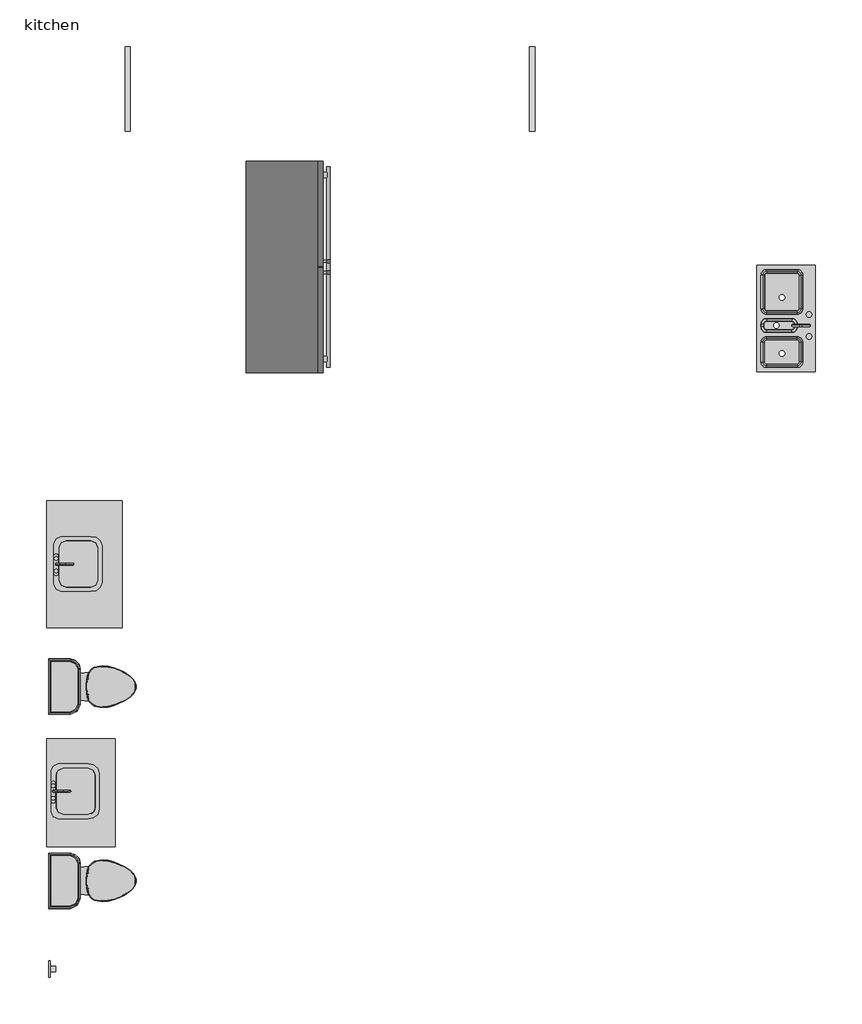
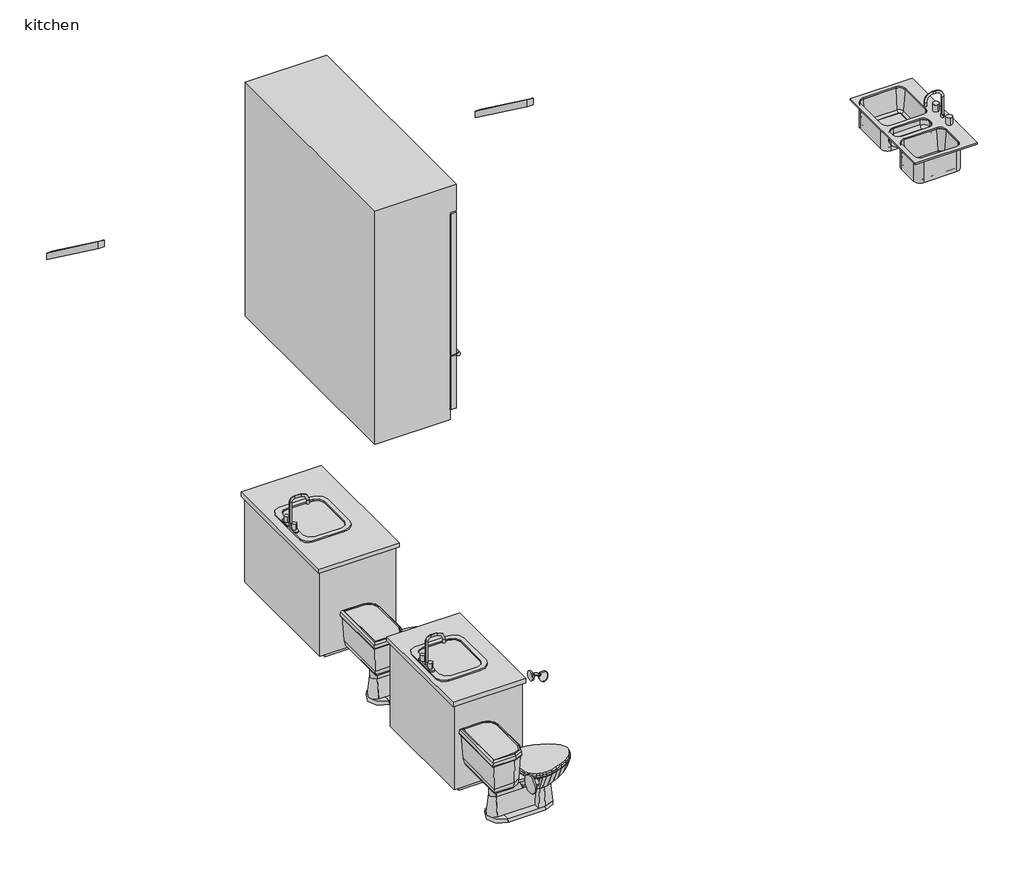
# One storey: 6 flow terminals, 3 proxies, 2 railings.
"""IFC4 building model written with IfcOpenShell, lengths in millimetres."""

from ifc_helpers import new_model, si_unit, origin, place, context, project, spatial, transform, mapped, element, save
from components import countertop_rectangle_shape_base_default_1_7ae78522, countertop_rectangle_shape_base_default_1_4019be03, fridge_default_1_46c48ad1, bath_basin_do_not_use_500_x_440mm_14db80bf, default_1_a9700879, kitchen_triple_sink_default_1_10f32469, kitchen_triple_sink_default_1_57820671, toilet_default_1_5cb52bd4, toilet_default_1_183bbd19, railing_900mm_rectangular_stringer_only_fc214f1d, railing_900mm_rectangular_stringer_only_a61a1eb9

model = new_model("IFC4")

# Units and contexts
model_context = context("Model", 3, world=origin())
ifc_project = project(units=[si_unit("LENGTHUNIT", "METRE", prefix="MILLI")], contexts=[model_context])

# Site, building, storey
site = spatial("IfcSite", under=ifc_project)
building = spatial("IfcBuilding", under=site)
storey = spatial("IfcBuildingStorey", under=building, Name="kitchen", Elevation=3505.2)

# Proxies
placement = place(None, origin())
countertop_rectangle_shape_base_default_1_shape = countertop_rectangle_shape_base_default_1_7ae78522(model_context)
element("IfcBuildingElementProxy", 1, Name="Countertop- Rectangle shape base : Default 1", ObjectType="Countertop- Rectangle shape base : Default 1", at=placement, inside=storey, context=model_context, shape_type="MappedRepresentation", body=[
    mapped(countertop_rectangle_shape_base_default_1_shape, transform((-5241.925, -1863.725, 3505.2), x_axis=(0.0, 1.0, 0.0), y_axis=(-1.0, 0.0, 0.0), z_axis=(0.0, 0.0, 1.0))),
])
countertop_rectangle_shape_base_default_1_2_shape = countertop_rectangle_shape_base_default_1_4019be03(model_context)
element("IfcBuildingElementProxy", 2, Name="Countertop- Rectangle shape base : Default 1", ObjectType="Countertop- Rectangle shape base : Default 1", at=placement, inside=storey, context=model_context, shape_type="MappedRepresentation", body=[
    mapped(countertop_rectangle_shape_base_default_1_2_shape, transform((-5273.675, -3956.05, 3505.2), x_axis=(0.0, 1.0, 0.0), y_axis=(-1.0, 0.0, 0.0), z_axis=(0.0, 0.0, 1.0))),
])
fridge_default_1_shape = fridge_default_1_46c48ad1(model_context)
element("IfcBuildingElementProxy", 3, Name="Fridge : Default 1", ObjectType="Fridge : Default 1", at=placement, inside=storey, context=model_context, shape_type="MappedRepresentation", body=[
    mapped(fridge_default_1_shape, transform((-4240.2, 1616.075, 3505.2), x_axis=(0.0, 1.0, 0.0), y_axis=(-1.0, 0.0, 0.0), z_axis=(0.0, 0.0, 1.0))),
])

# Flow terminals
bath_basin_do_not_use_500_x_440mm_shape = bath_basin_do_not_use_500_x_440mm_14db80bf(model_context)
element("IfcFlowTerminal", 4, ObjectType="Bath-Basin DO NOT USE : 500 x 440mm", at=placement, inside=storey, context=model_context, shape_type="MappedRepresentation", body=[
    mapped(bath_basin_do_not_use_500_x_440mm_shape, transform((-5746.3897552, -3196.2075998, 3657.6), x_axis=(0.0, 1.0, 0.0), y_axis=(-1.0, 0.0, 0.0), z_axis=(0.0, 0.0, 1.0))),
])
element("IfcFlowTerminal", 5, ObjectType="Bath-Basin DO NOT USE : 500 x 440mm", at=placement, inside=storey, context=model_context, shape_type="MappedRepresentation", body=[
    mapped(bath_basin_do_not_use_500_x_440mm_shape, transform((-5720.8961188, -1117.4325998, 3657.6), x_axis=(0.0, 1.0, 0.0), y_axis=(-1.0, 0.0, 0.0), z_axis=(0.0, 0.0, 1.0))),
])
default_1_shape = default_1_a9700879(model_context)
element("IfcFlowTerminal", 6, ObjectType="Bath-Showerhead : Default 1", at=placement, inside=storey, context=model_context, shape_type="MappedRepresentation", body=[
    mapped(default_1_shape, transform((-5949.95, -4806.95, 3505.2), x_axis=(0.0, 1.0, 0.0), y_axis=(-1.0, 0.0, 0.0), z_axis=(0.0, 0.0, 1.0))),
])
kitchen_triple_sink_default_1_shape = kitchen_triple_sink_default_1_10f32469(model_context)
kitchen_triple_sink_default_1_2_shape = kitchen_triple_sink_default_1_57820671(model_context)
element("IfcFlowTerminal", 7, ObjectType="Kitchen - Triple Sink : Default 1", at=placement, inside=storey, context=model_context, shape_type="MappedRepresentation", body=[
    mapped(kitchen_triple_sink_default_1_shape, transform((800.1, 1236.9536503, 3505.2), x_axis=(0.0, -1.0, 0.0), y_axis=(1.0, 0.0, 0.0), z_axis=(0.0, 0.0, 1.0))),
    mapped(kitchen_triple_sink_default_1_2_shape, transform((800.1, 1236.9536503, 3505.2), x_axis=(0.0, -1.0, 0.0), y_axis=(1.0, 0.0, 0.0), z_axis=(0.0, 0.0, 1.0))),
])
toilet_default_1_shape = toilet_default_1_5cb52bd4(model_context)
toilet_default_1_2_shape = toilet_default_1_183bbd19(model_context)
element("IfcFlowTerminal", 8, ObjectType="Toilet : Default 1", at=placement, inside=storey, context=model_context, shape_type="MappedRepresentation", body=[
    mapped(toilet_default_1_shape, transform((-5455.2539726, -2223.1384726, 3505.2), x_axis=(0.0, 1.0, 0.0), y_axis=(-1.0, 0.0, 0.0), z_axis=(0.0, 0.0, 1.0))),
    mapped(toilet_default_1_2_shape, transform((-5455.2539726, -2223.1384726, 3505.2), x_axis=(0.0, 1.0, 0.0), y_axis=(-1.0, 0.0, 0.0), z_axis=(0.0, 0.0, 1.0))),
])
element("IfcFlowTerminal", 9, ObjectType="Toilet : Default 1", at=placement, inside=storey, context=model_context, shape_type="MappedRepresentation", body=[
    mapped(toilet_default_1_shape, transform((-5455.2539726, -3999.2112274, 3505.2), x_axis=(0.0, 1.0, 0.0), y_axis=(-1.0, 0.0, 0.0), z_axis=(0.0, 0.0, 1.0))),
    mapped(toilet_default_1_2_shape, transform((-5455.2539726, -3999.2112274, 3505.2), x_axis=(0.0, 1.0, 0.0), y_axis=(-1.0, 0.0, 0.0), z_axis=(0.0, 0.0, 1.0))),
])

# Railings
railing_900mm_rectangular_stringer_only_shape = railing_900mm_rectangular_stringer_only_fc214f1d(model_context)
element("IfcRailing", 10, ObjectType="900mm Rectangular Stringer Only", at=placement, inside=storey, context=model_context, shape_type="MappedRepresentation", body=[
    mapped(railing_900mm_rectangular_stringer_only_shape, transform((0.0, 0.0, 0.0), x_axis=(1.0, 0.0, 0.0), y_axis=(0.0, 1.0, 0.0), z_axis=(0.0, 0.0, 1.0))),
])
railing_900mm_rectangular_stringer_only_2_shape = railing_900mm_rectangular_stringer_only_a61a1eb9(model_context)
element("IfcRailing", 11, ObjectType="900mm Rectangular Stringer Only", at=placement, inside=storey, context=model_context, shape_type="MappedRepresentation", body=[
    mapped(railing_900mm_rectangular_stringer_only_2_shape, transform((0.0, 0.0, 0.0), x_axis=(1.0, 0.0, 0.0), y_axis=(0.0, 1.0, 0.0), z_axis=(0.0, 0.0, 1.0))),
])

save(model, "model.ifc")
